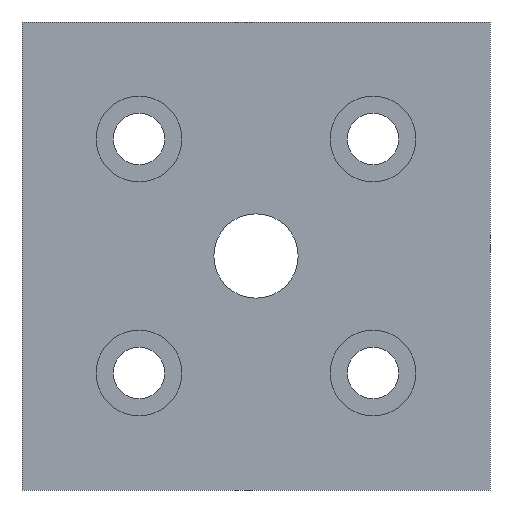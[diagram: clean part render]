
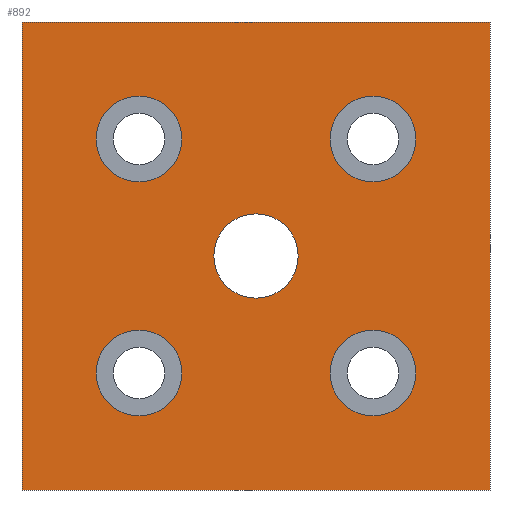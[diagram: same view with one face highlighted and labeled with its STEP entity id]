
A CAD part, front view. The second image highlights one B-rep face of the part: STEP entity #892.
In plain terms, the highlighted planar face has unit normal (0, -1, 0).
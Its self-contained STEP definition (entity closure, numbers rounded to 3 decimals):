
#1 = DIRECTION ( 'NONE',  ( 0., 0., -1. ) ) ;
#4 = CARTESIAN_POINT ( 'NONE',  ( 15., 0., -50.5 ) ) ;
#6 = DIRECTION ( 'NONE',  ( 0., -1., 0. ) ) ;
#12 = CIRCLE ( 'NONE', #316, 5.5 ) ;
#16 = AXIS2_PLACEMENT_3D ( 'NONE', #231, #724, #304 ) ;
#20 = ORIENTED_EDGE ( 'NONE', *, *, #331, .F. ) ;
#40 = EDGE_LOOP ( 'NONE', ( #588, #98 ) ) ;
#41 = ORIENTED_EDGE ( 'NONE', *, *, #591, .F. ) ;
#43 = DIRECTION ( 'NONE',  ( 0., -1., 0. ) ) ;
#44 = CIRCLE ( 'NONE', #494, 5.5 ) ;
#52 = ORIENTED_EDGE ( 'NONE', *, *, #808, .F. ) ;
#55 = CARTESIAN_POINT ( 'NONE',  ( 60., 0., 0. ) ) ;
#59 = CARTESIAN_POINT ( 'NONE',  ( 45., 0., -15. ) ) ;
#67 = EDGE_CURVE ( 'NONE', #760, #380, #94, .T. ) ;
#68 = FACE_BOUND ( 'NONE', #774, .T. ) ;
#89 = VERTEX_POINT ( 'NONE', #902 ) ;
#94 = LINE ( 'NONE', #830, #828 ) ;
#98 = ORIENTED_EDGE ( 'NONE', *, *, #765, .F. ) ;
#104 = EDGE_CURVE ( 'NONE', #89, #683, #204, .T. ) ;
#126 = ORIENTED_EDGE ( 'NONE', *, *, #67, .F. ) ;
#137 = CARTESIAN_POINT ( 'NONE',  ( 0., 0., -60. ) ) ;
#138 = CIRCLE ( 'NONE', #599, 5.5 ) ;
#140 = DIRECTION ( 'NONE',  ( 0., 0., -1. ) ) ;
#149 = EDGE_CURVE ( 'NONE', #804, #885, #237, .T. ) ;
#154 = ORIENTED_EDGE ( 'NONE', *, *, #356, .F. ) ;
#167 = ORIENTED_EDGE ( 'NONE', *, *, #149, .F. ) ;
#170 = DIRECTION ( 'NONE',  ( 0., -1., 0. ) ) ;
#171 = FACE_BOUND ( 'NONE', #471, .T. ) ;
#177 = EDGE_LOOP ( 'NONE', ( #126, #52, #167, #230 ) ) ;
#204 = CIRCLE ( 'NONE', #257, 5.5 ) ;
#213 = EDGE_CURVE ( 'NONE', #792, #659, #530, .T. ) ;
#230 = ORIENTED_EDGE ( 'NONE', *, *, #301, .F. ) ;
#231 = CARTESIAN_POINT ( 'NONE',  ( 45., 0., -45. ) ) ;
#232 = AXIS2_PLACEMENT_3D ( 'NONE', #346, #839, #419 ) ;
#237 = LINE ( 'NONE', #529, #402 ) ;
#253 = LINE ( 'NONE', #137, #401 ) ;
#257 = AXIS2_PLACEMENT_3D ( 'NONE', #595, #170, #665 ) ;
#262 = CARTESIAN_POINT ( 'NONE',  ( 45., 0., -39.5 ) ) ;
#269 = CARTESIAN_POINT ( 'NONE',  ( 15., 0., -45. ) ) ;
#274 = AXIS2_PLACEMENT_3D ( 'NONE', #59, #572, #140 ) ;
#282 = CARTESIAN_POINT ( 'NONE',  ( 30., 0., -24.6 ) ) ;
#284 = EDGE_CURVE ( 'NONE', #799, #817, #489, .T. ) ;
#301 = EDGE_CURVE ( 'NONE', #380, #804, #861, .T. ) ;
#304 = DIRECTION ( 'NONE',  ( 0., 0., -1. ) ) ;
#308 = VERTEX_POINT ( 'NONE', #894 ) ;
#310 = DIRECTION ( 'NONE',  ( 0., 0., -1. ) ) ;
#316 = AXIS2_PLACEMENT_3D ( 'NONE', #486, #43, #552 ) ;
#322 = ORIENTED_EDGE ( 'NONE', *, *, #742, .F. ) ;
#324 = FACE_BOUND ( 'NONE', #737, .T. ) ;
#327 = VERTEX_POINT ( 'NONE', #262 ) ;
#331 = EDGE_CURVE ( 'NONE', #817, #799, #707, .T. ) ;
#334 = CARTESIAN_POINT ( 'NONE',  ( 30., 0., -30. ) ) ;
#342 = DIRECTION ( 'NONE',  ( 0., 0., -1. ) ) ;
#346 = CARTESIAN_POINT ( 'NONE',  ( 15., 0., -15. ) ) ;
#354 = CARTESIAN_POINT ( 'NONE',  ( 45., 0., -15. ) ) ;
#356 = EDGE_CURVE ( 'NONE', #683, #89, #138, .T. ) ;
#372 = CARTESIAN_POINT ( 'NONE',  ( 0., 0., 0. ) ) ;
#380 = VERTEX_POINT ( 'NONE', #741 ) ;
#398 = DIRECTION ( 'NONE',  ( 0., 0., 1. ) ) ;
#401 = VECTOR ( 'NONE', #709, 1000. ) ;
#402 = VECTOR ( 'NONE', #310, 1000. ) ;
#406 = DIRECTION ( 'NONE',  ( 0., 0., -1. ) ) ;
#413 = DIRECTION ( 'NONE',  ( 0., -1., 0. ) ) ;
#419 = DIRECTION ( 'NONE',  ( 0., 0., -1. ) ) ;
#428 = DIRECTION ( 'NONE',  ( 0., 0., -1. ) ) ;
#436 = DIRECTION ( 'NONE',  ( 0., -1., 0. ) ) ;
#438 = CARTESIAN_POINT ( 'NONE',  ( 60., 0., -60. ) ) ;
#441 = CARTESIAN_POINT ( 'NONE',  ( 0., 0., -60. ) ) ;
#467 = ORIENTED_EDGE ( 'NONE', *, *, #921, .F. ) ;
#471 = EDGE_LOOP ( 'NONE', ( #154, #888 ) ) ;
#476 = VERTEX_POINT ( 'NONE', #891 ) ;
#481 = EDGE_CURVE ( 'NONE', #540, #327, #12, .T. ) ;
#486 = CARTESIAN_POINT ( 'NONE',  ( 45., 0., -45. ) ) ;
#489 = CIRCLE ( 'NONE', #662, 5.4 ) ;
#494 = AXIS2_PLACEMENT_3D ( 'NONE', #354, #851, #428 ) ;
#512 = PLANE ( 'NONE',  #535 ) ;
#516 = DIRECTION ( 'NONE',  ( 0., 0., -1. ) ) ;
#529 = CARTESIAN_POINT ( 'NONE',  ( 60., 0., 0. ) ) ;
#530 = CIRCLE ( 'NONE', #751, 5.5 ) ;
#535 = AXIS2_PLACEMENT_3D ( 'NONE', #441, #6, #516 ) ;
#540 = VERTEX_POINT ( 'NONE', #829 ) ;
#552 = DIRECTION ( 'NONE',  ( 0., 0., -1. ) ) ;
#572 = DIRECTION ( 'NONE',  ( 0., -1., 0. ) ) ;
#576 = CARTESIAN_POINT ( 'NONE',  ( 15., 0., -9.5 ) ) ;
#588 = ORIENTED_EDGE ( 'NONE', *, *, #213, .F. ) ;
#591 = EDGE_CURVE ( 'NONE', #308, #476, #725, .T. ) ;
#595 = CARTESIAN_POINT ( 'NONE',  ( 15., 0., -45. ) ) ;
#599 = AXIS2_PLACEMENT_3D ( 'NONE', #269, #762, #342 ) ;
#616 = AXIS2_PLACEMENT_3D ( 'NONE', #831, #413, #903 ) ;
#625 = CARTESIAN_POINT ( 'NONE',  ( 0., 0., -60. ) ) ;
#629 = CARTESIAN_POINT ( 'NONE',  ( 15., 0., -20.5 ) ) ;
#650 = DIRECTION ( 'NONE',  ( 1., 0., 0. ) ) ;
#659 = VERTEX_POINT ( 'NONE', #576 ) ;
#662 = AXIS2_PLACEMENT_3D ( 'NONE', #334, #825, #406 ) ;
#663 = FACE_BOUND ( 'NONE', #843, .T. ) ;
#665 = DIRECTION ( 'NONE',  ( 0., 0., -1. ) ) ;
#683 = VERTEX_POINT ( 'NONE', #4 ) ;
#705 = CARTESIAN_POINT ( 'NONE',  ( 30., 0., -35.4 ) ) ;
#707 = CIRCLE ( 'NONE', #616, 5.4 ) ;
#709 = DIRECTION ( 'NONE',  ( -1., 0., 0. ) ) ;
#723 = ORIENTED_EDGE ( 'NONE', *, *, #481, .F. ) ;
#724 = DIRECTION ( 'NONE',  ( 0., -1., 0. ) ) ;
#725 = CIRCLE ( 'NONE', #274, 5.5 ) ;
#737 = EDGE_LOOP ( 'NONE', ( #41, #467 ) ) ;
#741 = CARTESIAN_POINT ( 'NONE',  ( 0., 0., 0. ) ) ;
#742 = EDGE_CURVE ( 'NONE', #327, #540, #842, .T. ) ;
#747 = VECTOR ( 'NONE', #650, 1000. ) ;
#751 = AXIS2_PLACEMENT_3D ( 'NONE', #860, #436, #1 ) ;
#760 = VERTEX_POINT ( 'NONE', #625 ) ;
#762 = DIRECTION ( 'NONE',  ( 0., -1., 0. ) ) ;
#765 = EDGE_CURVE ( 'NONE', #659, #792, #815, .T. ) ;
#774 = EDGE_LOOP ( 'NONE', ( #723, #322 ) ) ;
#792 = VERTEX_POINT ( 'NONE', #629 ) ;
#799 = VERTEX_POINT ( 'NONE', #705 ) ;
#803 = FACE_OUTER_BOUND ( 'NONE', #177, .T. ) ;
#804 = VERTEX_POINT ( 'NONE', #55 ) ;
#808 = EDGE_CURVE ( 'NONE', #885, #760, #253, .T. ) ;
#815 = CIRCLE ( 'NONE', #232, 5.5 ) ;
#817 = VERTEX_POINT ( 'NONE', #282 ) ;
#825 = DIRECTION ( 'NONE',  ( 0., -1., 0. ) ) ;
#828 = VECTOR ( 'NONE', #398, 1000. ) ;
#829 = CARTESIAN_POINT ( 'NONE',  ( 45., 0., -50.5 ) ) ;
#830 = CARTESIAN_POINT ( 'NONE',  ( 0., 0., 0. ) ) ;
#831 = CARTESIAN_POINT ( 'NONE',  ( 30., 0., -30. ) ) ;
#839 = DIRECTION ( 'NONE',  ( 0., -1., 0. ) ) ;
#842 = CIRCLE ( 'NONE', #16, 5.5 ) ;
#843 = EDGE_LOOP ( 'NONE', ( #872, #20 ) ) ;
#851 = DIRECTION ( 'NONE',  ( 0., -1., 0. ) ) ;
#860 = CARTESIAN_POINT ( 'NONE',  ( 15., 0., -15. ) ) ;
#861 = LINE ( 'NONE', #372, #747 ) ;
#872 = ORIENTED_EDGE ( 'NONE', *, *, #284, .F. ) ;
#885 = VERTEX_POINT ( 'NONE', #438 ) ;
#888 = ORIENTED_EDGE ( 'NONE', *, *, #104, .F. ) ;
#891 = CARTESIAN_POINT ( 'NONE',  ( 45., 0., -9.5 ) ) ;
#892 = ADVANCED_FACE ( 'NONE', ( #895, #324, #68, #171, #663, #803 ), #512, .T. ) ;
#894 = CARTESIAN_POINT ( 'NONE',  ( 45., 0., -20.5 ) ) ;
#895 = FACE_BOUND ( 'NONE', #40, .T. ) ;
#902 = CARTESIAN_POINT ( 'NONE',  ( 15., 0., -39.5 ) ) ;
#903 = DIRECTION ( 'NONE',  ( 0., 0., -1. ) ) ;
#921 = EDGE_CURVE ( 'NONE', #476, #308, #44, .T. ) ;
